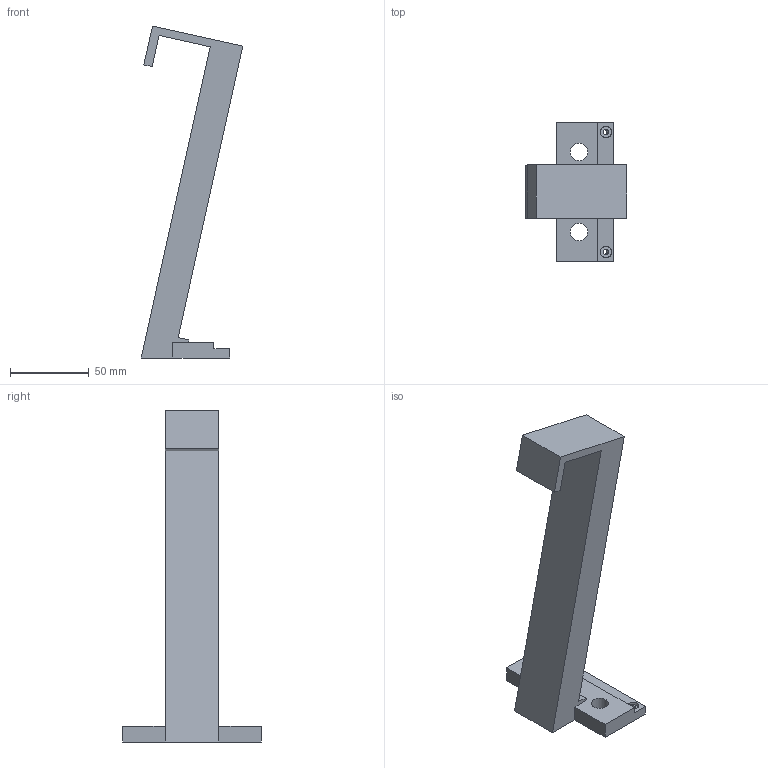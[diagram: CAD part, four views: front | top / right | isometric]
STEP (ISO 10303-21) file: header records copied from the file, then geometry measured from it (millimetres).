
FILE_DESCRIPTION(('Open CASCADE Model'),'2;1');
FILE_NAME('Open CASCADE Shape Model','2026-10-16T02:10:56',('Author'),( 'Open CASCADE'),'Open CASCADE STEP processor 7.9','Open CASCADE 7.9' ,'Unknown');
FILE_SCHEMA(('AUTOMOTIVE_DESIGN { 1 0 10303 214 1 1 1 1 }'));
Length unit declared in the file: millimetre
Products named in the file (1): Open CASCADE STEP translator 7.9 3
Bounding box: 64.31 x 88 x 210.36 mm (x, y, z)
Volume: 175547.2 mm3; surface area: 36396.6 mm2
Topology: 1 solids, 1 shells, 28 faces, 72 edges, 48 vertices
Faces by surface type: plane 22, cylinder 6
Full cylindrical faces by diameter (mm): 3.4 x2, 7.2 x2, 11 x2
Entity records: 1895 total; most frequent: CARTESIAN_POINT 412, DIRECTION 271, LINE 181, VECTOR 181, ORIENTED_EDGE 144, PCURVE 144, DEFINITIONAL_REPRESENTATION 144, EDGE_CURVE 72
